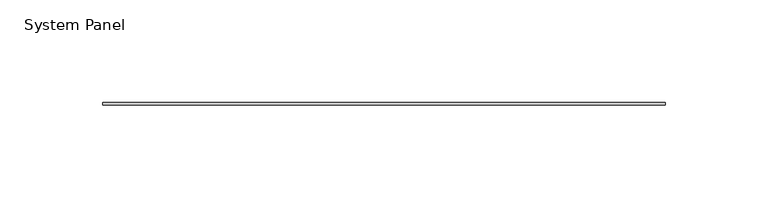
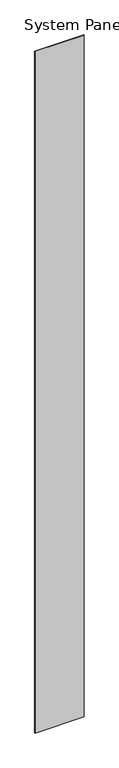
"""IFC4 building model written with IfcOpenShell, lengths in millimetres: plate geometry, System Panel : Stratco_Hiland_Interlock_Panel."""

from ifc_helpers import new_model, si_unit, origin, origin_with_axes, place, context, project, spatial, polyline, outline, extrude, source, transform, mapped, element, save


def system_panel_f792b1a7(model_context):
    return source(origin(), model_context, "Body", "SweptSolid", [
        extrude(outline(polyline([(136.5000002, 24.0), (-136.5000002, 24.0), (-136.5000002, 25.0), (136.5000002, 25.0), (136.5000002, 24.0)])), origin_with_axes(), (0.0, 0.0, 1.0), 4000.0),
    ])


if __name__ == "__main__":
    model = new_model("IFC4")
    model_context = context("Model", 3, world=origin())
    ifc_project = project(units=[si_unit("LENGTHUNIT", "METRE", prefix="MILLI")], contexts=[model_context])
    site = spatial("IfcSite", under=ifc_project)
    building = spatial("IfcBuilding", under=site)
    placement = place(None, origin())
    system_panel_shape = system_panel_f792b1a7(model_context)
    element("IfcPlate", 1, ObjectType="System Panel : Stratco_Hiland_Interlock_Panel", at=placement, inside=building, context=model_context, shape_type="MappedRepresentation", body=[
        mapped(system_panel_shape, transform((0.0, 0.0, 0.0), x_axis=(1.0, 0.0, 0.0), y_axis=(0.0, 1.0, 0.0), z_axis=(0.0, 0.0, 1.0))),
    ])
    save(model, "model.ifc")
